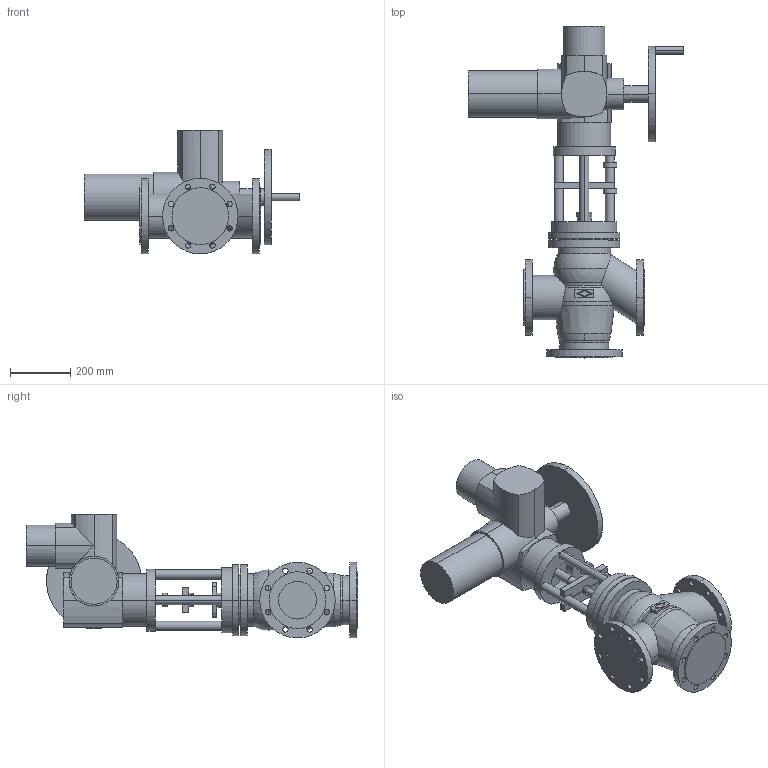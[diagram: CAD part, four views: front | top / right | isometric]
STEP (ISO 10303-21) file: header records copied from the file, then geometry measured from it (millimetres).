
FILE_DESCRIPTION(('OneSpaceDesigner STEP Export'),'2;1');
FILE_NAME('c000003164.stp','2007-01-26T12:36:21',(''),(''),'OneSpace Designer STEP processor for AP214 (Solid Model)','OneSpace Designer 14.00B 27-May-2006 (C) CoCreate Software GmbH','');
FILE_SCHEMA(('AUTOMOTIVE_DESIGN { 1 0 10303 214 1 1 1 1 }'));
Length unit declared in the file: millimetre
Products named in the file (2): 1; 2
Bounding box: 713 x 1099 x 410 mm (x, y, z)
Volume: 43561542 mm3; surface area: 1709369.7 mm2
Topology: 2 solids, 2 shells, 283 faces, 715 edges, 457 vertices
Faces by surface type: cylinder 159, plane 102, torus 8, sphere 8, cone 6
Entity records: 8001 total; most frequent: CARTESIAN_POINT 1859, ORIENTED_EDGE 1414, DIRECTION 1082, EDGE_CURVE 707, VERTEX_POINT 457, AXIS2_PLACEMENT_3D 389, EDGE_LOOP 368, VECTOR 304
